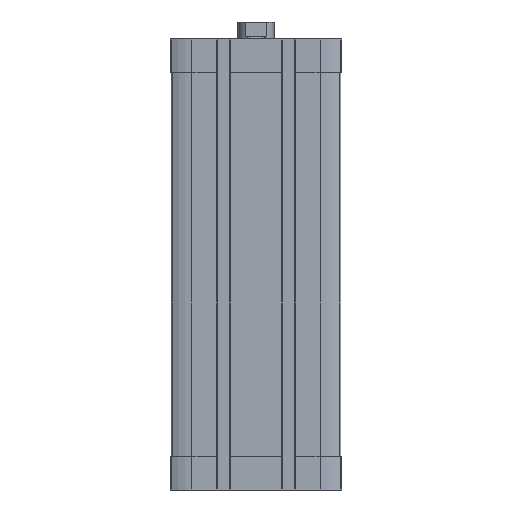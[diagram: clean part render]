
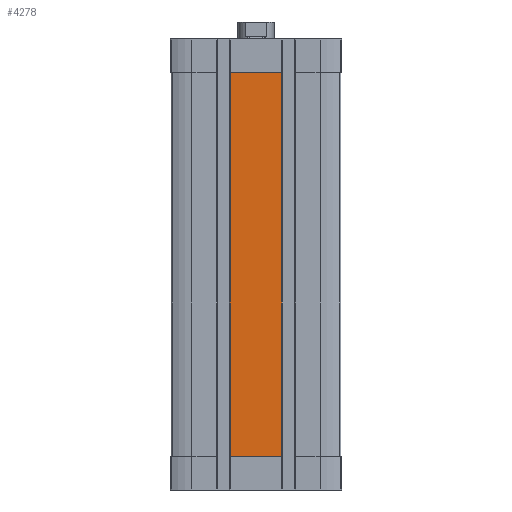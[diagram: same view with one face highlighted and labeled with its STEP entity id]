
A CAD part, front view. The second image highlights one B-rep face of the part: STEP entity #4278.
In plain terms, the highlighted planar face has unit normal (0, -1, 0).
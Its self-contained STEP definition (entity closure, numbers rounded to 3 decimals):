
#338 = LINE ( 'NONE', #14629, #3167 ) ;
#451 = VERTEX_POINT ( 'NONE', #2117 ) ;
#673 = CARTESIAN_POINT ( 'NONE',  ( -11.4, -37.5, -184. ) ) ;
#698 = DIRECTION ( 'NONE',  ( 0., 0., -1. ) ) ;
#1057 = FACE_OUTER_BOUND ( 'NONE', #6417, .T. ) ;
#1502 = VERTEX_POINT ( 'NONE', #5721 ) ;
#1607 = DIRECTION ( 'NONE',  ( -1., 0., 0. ) ) ;
#2110 = ORIENTED_EDGE ( 'NONE', *, *, #13777, .T. ) ;
#2117 = CARTESIAN_POINT ( 'NONE',  ( 11.4, -37.5, -184. ) ) ;
#2780 = CARTESIAN_POINT ( 'NONE',  ( 11.4, -37.5, -15. ) ) ;
#2993 = VECTOR ( 'NONE', #12545, 1000. ) ;
#3032 = EDGE_CURVE ( 'NONE', #6147, #1502, #338, .T. ) ;
#3167 = VECTOR ( 'NONE', #1607, 1000. ) ;
#3206 = ORIENTED_EDGE ( 'NONE', *, *, #3032, .T. ) ;
#3778 = DIRECTION ( 'NONE',  ( 0., 0., -1. ) ) ;
#4120 = DIRECTION ( 'NONE',  ( 1., 0., 0. ) ) ;
#4278 = ADVANCED_FACE ( 'NONE', ( #1057 ), #4937, .T. ) ;
#4874 = LINE ( 'NONE', #11437, #8267 ) ;
#4937 = PLANE ( 'NONE',  #9390 ) ;
#5301 = LINE ( 'NONE', #14905, #8282 ) ;
#5321 = CARTESIAN_POINT ( 'NONE',  ( 11.4, -37.5, -184. ) ) ;
#5721 = CARTESIAN_POINT ( 'NONE',  ( -11.4, -37.5, -15. ) ) ;
#5842 = ORIENTED_EDGE ( 'NONE', *, *, #11280, .T. ) ;
#6147 = VERTEX_POINT ( 'NONE', #2780 ) ;
#6417 = EDGE_LOOP ( 'NONE', ( #5842, #2110, #3206, #8284 ) ) ;
#8267 = VECTOR ( 'NONE', #4120, 1000. ) ;
#8282 = VECTOR ( 'NONE', #698, 1000. ) ;
#8284 = ORIENTED_EDGE ( 'NONE', *, *, #10692, .T. ) ;
#8719 = CARTESIAN_POINT ( 'NONE',  ( -11.4, -37.5, -184. ) ) ;
#9335 = VERTEX_POINT ( 'NONE', #673 ) ;
#9390 = AXIS2_PLACEMENT_3D ( 'NONE', #8719, #11081, #3778 ) ;
#9540 = LINE ( 'NONE', #5321, #2993 ) ;
#10692 = EDGE_CURVE ( 'NONE', #1502, #9335, #5301, .T. ) ;
#11081 = DIRECTION ( 'NONE',  ( 0., -1., 0. ) ) ;
#11280 = EDGE_CURVE ( 'NONE', #9335, #451, #4874, .T. ) ;
#11437 = CARTESIAN_POINT ( 'NONE',  ( -11.4, -37.5, -184. ) ) ;
#12545 = DIRECTION ( 'NONE',  ( 0., 0., 1. ) ) ;
#13777 = EDGE_CURVE ( 'NONE', #451, #6147, #9540, .T. ) ;
#14629 = CARTESIAN_POINT ( 'NONE',  ( 0., -37.5, -15. ) ) ;
#14905 = CARTESIAN_POINT ( 'NONE',  ( -11.4, -37.5, -184. ) ) ;
